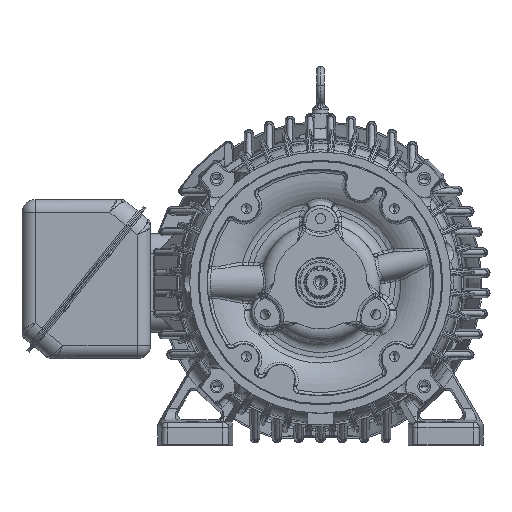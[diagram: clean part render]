
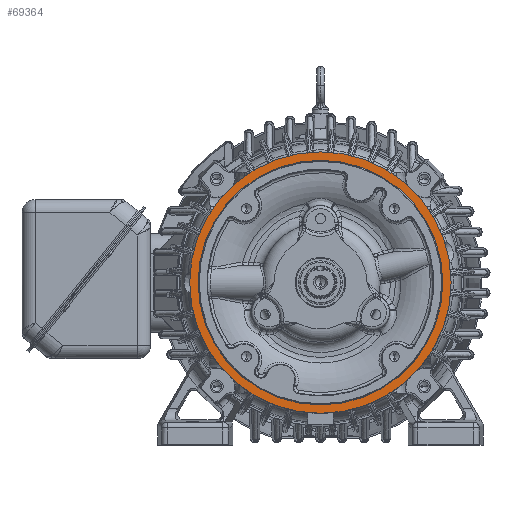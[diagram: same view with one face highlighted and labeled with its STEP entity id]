
A CAD part, top view. The second image highlights one B-rep face of the part: STEP entity #69364.
In plain terms, the highlighted planar face has unit normal (0, 0, 1) as drawn and (0, 0, -1) by its records, which use the part's own axes.
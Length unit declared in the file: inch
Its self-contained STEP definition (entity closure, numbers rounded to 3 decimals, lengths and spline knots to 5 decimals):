
#47005=CARTESIAN_POINT('',(0.,0.,-4.482));
#47006=DIRECTION('',(0.,0.,1.));
#47007=DIRECTION('',(0.,1.,0.));
#47008=AXIS2_PLACEMENT_3D('',#47005,#47006,#47007);
#47020=CARTESIAN_POINT('',(0.,0.,-4.482));
#47021=DIRECTION('',(0.,0.,-1.));
#47022=DIRECTION('',(0.,1.,0.));
#47023=AXIS2_PLACEMENT_3D('',#47020,#47021,#47022);
#47025=CARTESIAN_POINT('',(0.,0.,-4.482));
#47026=DIRECTION('',(0.,0.,1.));
#47027=DIRECTION('',(0.,1.,0.));
#47028=AXIS2_PLACEMENT_3D('',#47025,#47026,#47027);
#47030=CARTESIAN_POINT('',(0.,0.,-4.482));
#47031=DIRECTION('',(0.,0.,-1.));
#47032=DIRECTION('',(0.,1.,0.));
#47033=AXIS2_PLACEMENT_3D('',#47030,#47031,#47032);
#63560=CARTESIAN_POINT('',(0.,5.266,-4.482));
#63562=VERTEX_POINT('',#63560);
#63568=CARTESIAN_POINT('',(0.,-5.266,-4.482));
#63570=VERTEX_POINT('',#63568);
#64080=CARTESIAN_POINT('',(0.,5.625,-4.482));
#64081=CARTESIAN_POINT('',(0.,-5.625,-4.482));
#64082=VERTEX_POINT('',#64080);
#64083=VERTEX_POINT('',#64081);
#69350=CARTESIAN_POINT('',(0.,0.,-4.482));
#69351=DIRECTION('',(0.,0.,1.));
#69352=DIRECTION('',(0.,1.,0.));
#69353=AXIS2_PLACEMENT_3D('',#69350,#69351,#69352);
#69354=PLANE('',#69353);
#69355=ORIENTED_EDGE('',*,*,#64187,.T.);
#69357=ORIENTED_EDGE('',*,*,#69356,.F.);
#69358=EDGE_LOOP('',(#69355,#69357));
#69359=FACE_OUTER_BOUND('',#69358,.F.);
#69360=ORIENTED_EDGE('',*,*,#69345,.T.);
#69361=ORIENTED_EDGE('',*,*,#69329,.F.);
#69362=EDGE_LOOP('',(#69360,#69361));
#69363=FACE_BOUND('',#69362,.F.);
#69364=ADVANCED_FACE('',(#69359,#69363),#69354,.F.);
#47009=CIRCLE('',#47008,5.266);
#47024=CIRCLE('',#47023,5.266);
#47029=CIRCLE('',#47028,5.625);
#47034=CIRCLE('',#47033,5.625);
#64187=EDGE_CURVE('',#64082,#64083,#47029,.T.);
#69329=EDGE_CURVE('',#63562,#63570,#47009,.T.);
#69345=EDGE_CURVE('',#63562,#63570,#47024,.T.);
#69356=EDGE_CURVE('',#64082,#64083,#47034,.T.);
